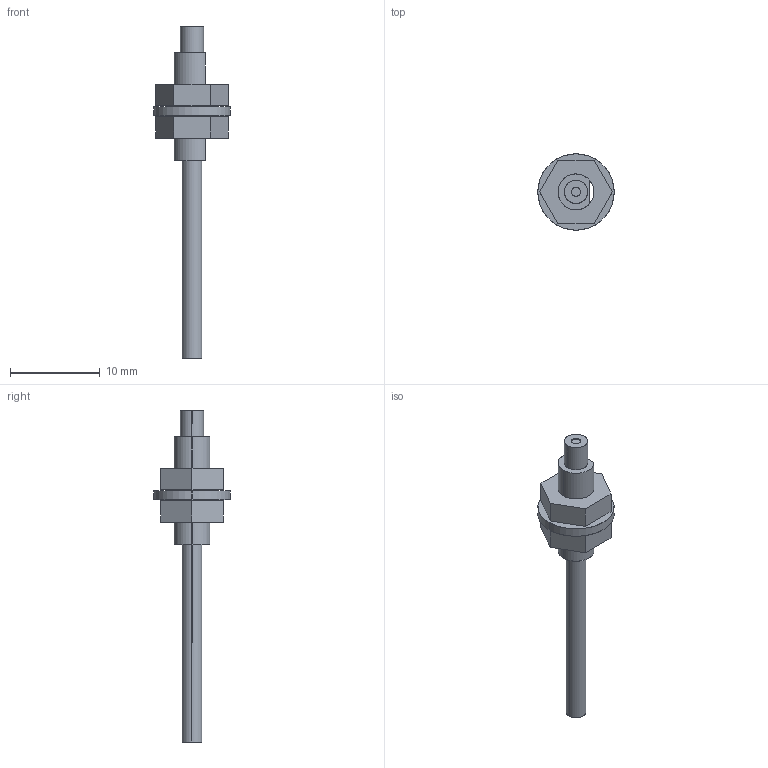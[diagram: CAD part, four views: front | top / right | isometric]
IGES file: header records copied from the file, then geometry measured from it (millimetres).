
Start section: SolidWorks IGES FILE using analytic representation for surfaces
Global section: file name: \\intra-srv04\開発データ\CAD_Data\CAD委員会\3D電子ｶﾀﾛｸﾞ\製品カタログ（新）\0_IGES\FT-FM2.IGS,41HSolidWorks 2004; native system: by SolidWorks Corporation; preprocessor: Version 5.3; author: yk0651; date: 050908.144131; units: millimetre
Bounding box: 8.5 x 8.5 x 37 mm (x, y, z)
Surface area: 771.9 mm2 (no closed solid volume)
Topology: 0 solids, 0 shells, 40 faces, 590 edges, 590 vertices
Faces by surface type: bspline 24, revolution 16
